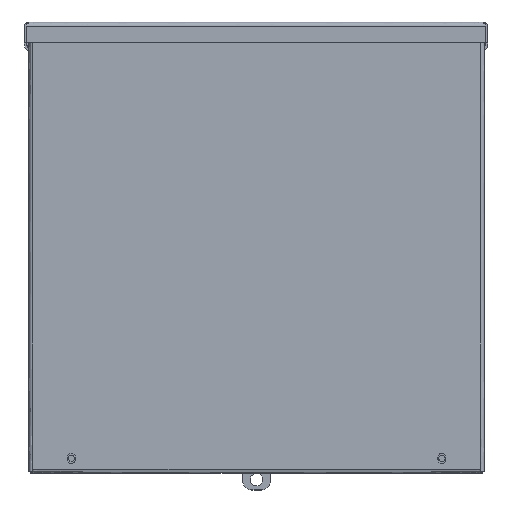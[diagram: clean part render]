
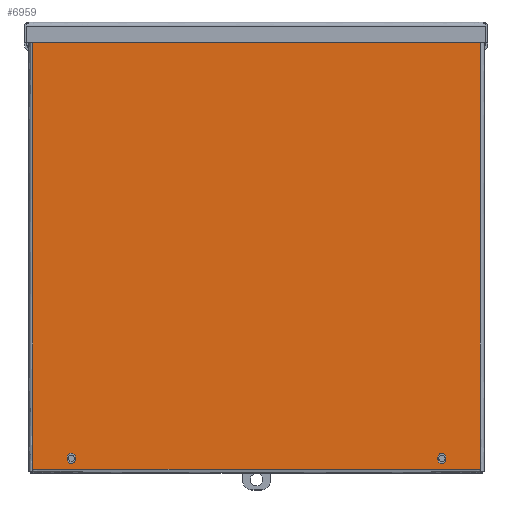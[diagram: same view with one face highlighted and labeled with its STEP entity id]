
A CAD part, top view. The second image highlights one B-rep face of the part: STEP entity #6959.
In plain terms, the highlighted free-form (B-spline) face has degree [1, 1] with [2, 2] control points.
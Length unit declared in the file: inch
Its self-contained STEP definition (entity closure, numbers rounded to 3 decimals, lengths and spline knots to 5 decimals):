
#6174=CARTESIAN_POINT('V71',(0.9855,-0.055,
   11.622));
#6175=VERTEX_POINT('V71',#6174);
#6183=CARTESIAN_POINT('V74',(1.2045,-0.055,
   11.622));
#6184=VERTEX_POINT('V74',#6183);
#6185=CARTESIAN_POINT('E88',(1.2045,-0.055,
   11.622));
#6186=CARTESIAN_POINT('E88',(1.2045,-0.055,
   11.5125));
#6187=CARTESIAN_POINT('E88',(1.095,-0.055,
   11.5125));
#6188=CARTESIAN_POINT('E88',(0.9855,-0.055,
   11.5125));
#6189=CARTESIAN_POINT('E88',(0.9855,-0.055,
   11.622));
#6197=(BOUNDED_CURVE()B_SPLINE_CURVE(2,(#6185,#6186,#6187,#6188,
   #6189),.CIRCULAR_ARC.,.F.,.U.)B_SPLINE_CURVE_WITH_KNOTS((3,2,3),
   (0.0,0.5,1.0),.UNSPECIFIED.)CURVE()
   GEOMETRIC_REPRESENTATION_ITEM()RATIONAL_B_SPLINE_CURVE((1.0,
   0.707,1.0,0.707,1.0))REPRESENTATION_ITEM(
   'E88'));
#6198=EDGE_CURVE('E88',#6184,#6175,#6197,.T.);
#6231=CARTESIAN_POINT('V73',(1.2045,-0.055,
   11.684));
#6232=VERTEX_POINT('V73',#6231);
#6233=CARTESIAN_POINT('E87',(1.2045,-0.055,
   11.684));
#6234=CARTESIAN_POINT('E87',(1.2045,-0.055,
   11.622));
#6235=QUASI_UNIFORM_CURVE('E87',1,(#6233,#6234),.POLYLINE_FORM.,.F.,
   .U.);
#6236=EDGE_CURVE('E87',#6232,#6184,#6235,.T.);
#6272=CARTESIAN_POINT('V72',(0.9855,-0.055,
   11.684));
#6273=VERTEX_POINT('V72',#6272);
#6274=CARTESIAN_POINT('E86',(0.9855,-0.055,
   11.684));
#6275=CARTESIAN_POINT('E86',(0.9855,-0.055,
   11.7935));
#6276=CARTESIAN_POINT('E86',(1.095,-0.055,
   11.7935));
#6277=CARTESIAN_POINT('E86',(1.2045,-0.055,
   11.7935));
#6278=CARTESIAN_POINT('E86',(1.2045,-0.055,
   11.684));
#6286=(BOUNDED_CURVE()B_SPLINE_CURVE(2,(#6274,#6275,#6276,#6277,
   #6278),.CIRCULAR_ARC.,.F.,.U.)B_SPLINE_CURVE_WITH_KNOTS((3,2,3),
   (0.0,0.5,1.0),.UNSPECIFIED.)CURVE()
   GEOMETRIC_REPRESENTATION_ITEM()RATIONAL_B_SPLINE_CURVE((1.0,
   0.707,1.0,0.707,1.0))REPRESENTATION_ITEM(
   'E86'));
#6287=EDGE_CURVE('E86',#6273,#6232,#6286,.T.);
#6320=CARTESIAN_POINT('E85',(0.9855,-0.055,
   11.622));
#6321=CARTESIAN_POINT('E85',(0.9855,-0.055,
   11.684));
#6322=QUASI_UNIFORM_CURVE('E85',1,(#6320,#6321),.POLYLINE_FORM.,.F.,
   .U.);
#6323=EDGE_CURVE('E85',#6175,#6273,#6322,.T.);
#6352=CARTESIAN_POINT('V67',(11.2045,-0.055,
   11.684));
#6353=VERTEX_POINT('V67',#6352);
#6361=CARTESIAN_POINT('V70',(10.9855,-0.055,
   11.684));
#6362=VERTEX_POINT('V70',#6361);
#6363=CARTESIAN_POINT('E84',(10.9855,-0.055,
   11.684));
#6364=CARTESIAN_POINT('E84',(10.9855,-0.055,
   11.7935));
#6365=CARTESIAN_POINT('E84',(11.095,-0.055,
   11.7935));
#6366=CARTESIAN_POINT('E84',(11.2045,-0.055,
   11.7935));
#6367=CARTESIAN_POINT('E84',(11.2045,-0.055,
   11.684));
#6375=(BOUNDED_CURVE()B_SPLINE_CURVE(2,(#6363,#6364,#6365,#6366,
   #6367),.CIRCULAR_ARC.,.F.,.U.)B_SPLINE_CURVE_WITH_KNOTS((3,2,3),
   (0.0,0.5,1.0),.UNSPECIFIED.)CURVE()
   GEOMETRIC_REPRESENTATION_ITEM()RATIONAL_B_SPLINE_CURVE((1.0,
   0.707,1.0,0.707,1.0))REPRESENTATION_ITEM(
   'E84'));
#6376=EDGE_CURVE('E84',#6362,#6353,#6375,.T.);
#6409=CARTESIAN_POINT('V69',(10.9855,-0.055,
   11.622));
#6410=VERTEX_POINT('V69',#6409);
#6411=CARTESIAN_POINT('E83',(10.9855,-0.055,
   11.622));
#6412=CARTESIAN_POINT('E83',(10.9855,-0.055,
   11.684));
#6413=QUASI_UNIFORM_CURVE('E83',1,(#6411,#6412),.POLYLINE_FORM.,.F.,
   .U.);
#6414=EDGE_CURVE('E83',#6410,#6362,#6413,.T.);
#6450=CARTESIAN_POINT('V68',(11.2045,-0.055,
   11.622));
#6451=VERTEX_POINT('V68',#6450);
#6452=CARTESIAN_POINT('E82',(11.2045,-0.055,
   11.622));
#6453=CARTESIAN_POINT('E82',(11.2045,-0.055,
   11.5125));
#6454=CARTESIAN_POINT('E82',(11.095,-0.055,
   11.5125));
#6455=CARTESIAN_POINT('E82',(10.9855,-0.055,
   11.5125));
#6456=CARTESIAN_POINT('E82',(10.9855,-0.055,
   11.622));
#6464=(BOUNDED_CURVE()B_SPLINE_CURVE(2,(#6452,#6453,#6454,#6455,
   #6456),.CIRCULAR_ARC.,.F.,.U.)B_SPLINE_CURVE_WITH_KNOTS((3,2,3),
   (0.0,0.5,1.0),.UNSPECIFIED.)CURVE()
   GEOMETRIC_REPRESENTATION_ITEM()RATIONAL_B_SPLINE_CURVE((1.0,
   0.707,1.0,0.707,1.0))REPRESENTATION_ITEM(
   'E82'));
#6465=EDGE_CURVE('E82',#6451,#6410,#6464,.T.);
#6498=CARTESIAN_POINT('E81',(11.2045,-0.055,
   11.684));
#6499=CARTESIAN_POINT('E81',(11.2045,-0.055,
   11.622));
#6500=QUASI_UNIFORM_CURVE('E81',1,(#6498,#6499),.POLYLINE_FORM.,.F.,
   .U.);
#6501=EDGE_CURVE('E81',#6353,#6451,#6500,.T.);
#6856=CARTESIAN_POINT('V44',(0.06,-0.055,
   11.945));
#6857=VERTEX_POINT('V44',#6856);
#6894=CARTESIAN_POINT('V45',(0.06,-0.055,
   0.));
#6895=VERTEX_POINT('V45',#6894);
#6896=CARTESIAN_POINT('E52',(0.06,-0.055,
   0.));
#6897=CARTESIAN_POINT('E52',(0.06,-0.055,
   11.945));
#6898=QUASI_UNIFORM_CURVE('E52',1,(#6896,#6897),.POLYLINE_FORM.,.F.,
   .U.);
#6899=EDGE_CURVE('E52',#6895,#6857,#6898,.T.);
#6920=CARTESIAN_POINT('F21',(12.13,-0.055,
   0.));
#6921=CARTESIAN_POINT('F21',(12.13,-0.055,
   11.945));
#6922=CARTESIAN_POINT('F21',(0.06,-0.055,
   0.));
#6923=CARTESIAN_POINT('F21',(0.06,-0.055,
   11.945));
#6924=B_SPLINE_SURFACE_WITH_KNOTS('F21',1,1,((#6920,#6922),(#6921,
   #6923)),.PLANE_SURF.,.F.,.F.,.U.,(2,2),(2,2),(
   0.0001,0.9999),(0.0001,
   0.9999),.UNSPECIFIED.);
#6925=CARTESIAN_POINT('V41',(12.13,-0.055,
   0.));
#6926=VERTEX_POINT('V41',#6925);
#6927=CARTESIAN_POINT('E80',(0.06,-0.055,
   0.0));
#6928=CARTESIAN_POINT('E80',(12.13,-0.055,
   0.0));
#6929=QUASI_UNIFORM_CURVE('E80',1,(#6927,#6928),.POLYLINE_FORM.,.F.,
   .U.);
#6930=EDGE_CURVE('E80',#6895,#6926,#6929,.T.);
#6931=ORIENTED_EDGE('E80',*,*,#6930,.T.);
#6932=CARTESIAN_POINT('V40',(12.13,-0.055,
   11.945));
#6933=VERTEX_POINT('V40',#6932);
#6934=CARTESIAN_POINT('E48',(12.13,-0.055,
   11.945));
#6935=CARTESIAN_POINT('E48',(12.13,-0.055,
   0.));
#6936=QUASI_UNIFORM_CURVE('E48',1,(#6934,#6935),.POLYLINE_FORM.,.F.,
   .U.);
#6937=EDGE_CURVE('E48',#6933,#6926,#6936,.T.);
#6938=ORIENTED_EDGE('E48',*,*,#6937,.F.);
#6939=CARTESIAN_POINT('E60',(0.06,-0.055,
   11.945));
#6940=CARTESIAN_POINT('E60',(12.13,-0.055,
   11.945));
#6941=QUASI_UNIFORM_CURVE('E60',1,(#6939,#6940),.POLYLINE_FORM.,.F.,
   .U.);
#6942=EDGE_CURVE('E60',#6857,#6933,#6941,.T.);
#6943=ORIENTED_EDGE('E60',*,*,#6942,.F.);
#6944=ORIENTED_EDGE('E52',*,*,#6899,.F.);
#6945=EDGE_LOOP('F21',(#6931,#6938,#6943,#6944));
#6946=FACE_OUTER_BOUND('F21',#6945,.T.);
#6947=ORIENTED_EDGE('E81',*,*,#6501,.T.);
#6948=ORIENTED_EDGE('E82',*,*,#6465,.T.);
#6949=ORIENTED_EDGE('E83',*,*,#6414,.T.);
#6950=ORIENTED_EDGE('E84',*,*,#6376,.T.);
#6951=EDGE_LOOP('F21',(#6947,#6948,#6949,#6950));
#6952=FACE_BOUND('F21',#6951,.T.);
#6953=ORIENTED_EDGE('E85',*,*,#6323,.T.);
#6954=ORIENTED_EDGE('E86',*,*,#6287,.T.);
#6955=ORIENTED_EDGE('E87',*,*,#6236,.T.);
#6956=ORIENTED_EDGE('E88',*,*,#6198,.T.);
#6957=EDGE_LOOP('F21',(#6953,#6954,#6955,#6956));
#6958=FACE_BOUND('F21',#6957,.T.);
#6959=ADVANCED_FACE('F21',(#6946,#6952,#6958),#6924,.T.);
